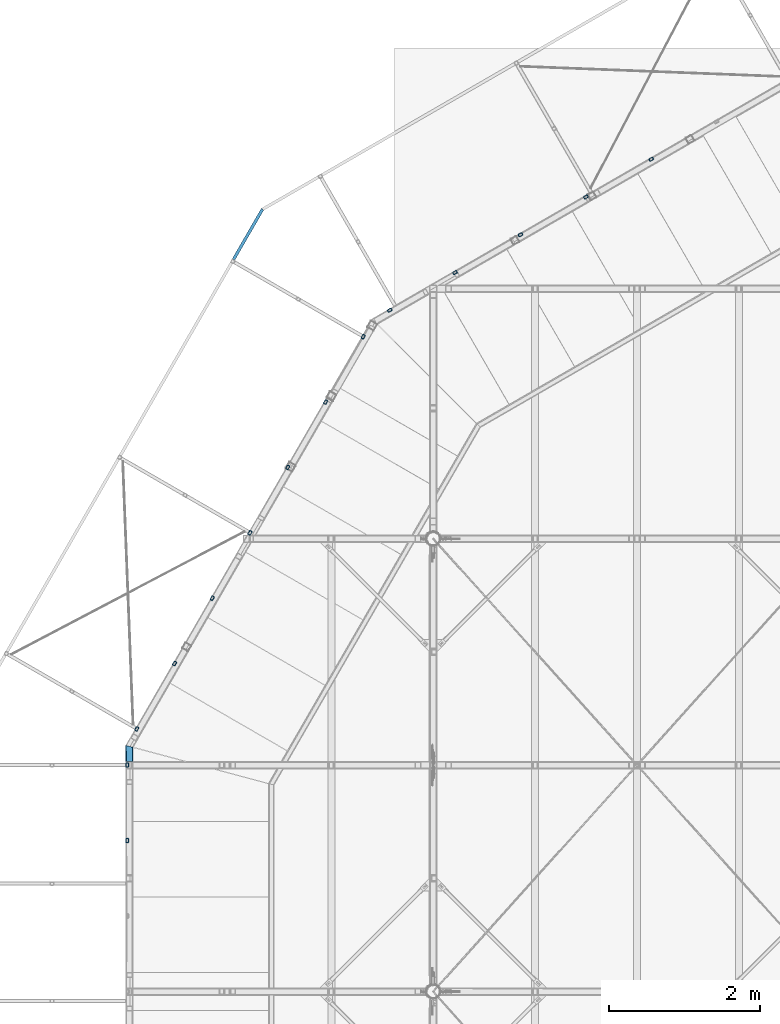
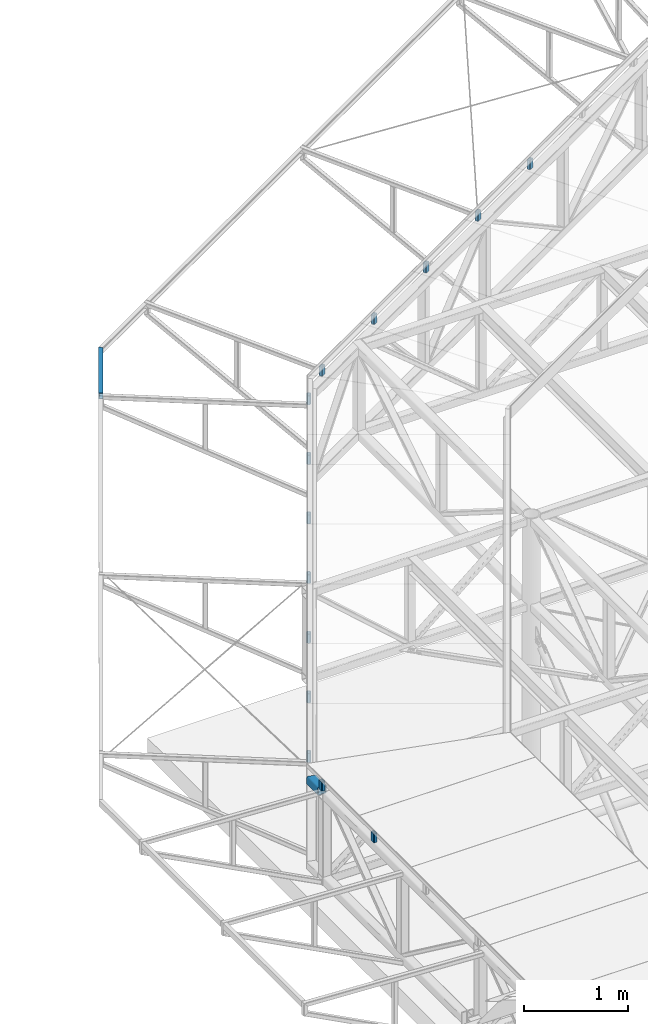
# One storey, part 26 of 132: 16 beams, 16 elements without a shape of their own.
"""IFC2X3 building model written with IfcOpenShell, lengths in millimetres."""

from ifc_helpers import new_model, si_unit, frame, origin_with_axes, origin_2d_with_axis, place, context, subcontext, project, spatial, hollow_rectangle, u_section, extrude, clip, halfspace, material, type_object, element, aggregate, save


model = new_model("IFC2X3")

# Units and contexts
model_context = context("Model", 3, precision=1e-05, world=origin_with_axes())
body_context = subcontext(model_context, "Body", "Model", "MODEL_VIEW")
ifc_project = project(units=[si_unit("LENGTHUNIT", "METRE", prefix="MILLI"), si_unit("AREAUNIT", "SQUARE_METRE"), si_unit("VOLUMEUNIT", "CUBIC_METRE"), si_unit("MASSUNIT", "GRAM", prefix="KILO"), si_unit("TIMEUNIT", "SECOND"), si_unit("PLANEANGLEUNIT", "RADIAN"), si_unit("SOLIDANGLEUNIT", "STERADIAN"), si_unit("THERMODYNAMICTEMPERATUREUNIT", "DEGREE_CELSIUS"), si_unit("LUMINOUSINTENSITYUNIT", "LUMEN")], contexts=[model_context])

# Site, building, storey
site_placement = place(None, origin_with_axes())
site = spatial("IfcSite", under=ifc_project, at=site_placement, Name="Budowa", CompositionType="ELEMENT")
building_placement = place(site_placement, origin_with_axes())
building = spatial("IfcBuilding", under=site, at=building_placement, Name="Undefined", CompositionType="ELEMENT")
storey_placement = place(building_placement, origin_with_axes())
storey = spatial("IfcBuildingStorey", under=building, at=storey_placement, Name="Undefined", CompositionType="ELEMENT", Elevation=0.0)

# Assembly, beam
assembly_1_placement = place(storey_placement, origin_with_axes())
assembly_1 = element("IfcElementAssembly", 1, at=assembly_1_placement, inside=storey, Name="Steel Assembly", AssemblyPlace="NOTDEFINED", PredefinedType="RIGID_FRAME")
ifc_material = material(Name="STEEL/S235")
beam_type_1 = type_object("IfcBeamType", Name="RHS60*40*6", PredefinedType="NOTDEFINED")
beam_1_placement = place(assembly_1_placement, frame((3098.43647414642, 20675.794224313, 13984.0000000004), z_axis=(0.5000000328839, 0.866025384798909, 0.0), x_axis=(0.0, 0.0, -1.0)))
beam_1 = element("IfcBeam", 2, at=beam_1_placement, type_object=beam_type_1, material=ifc_material, Name="BEAM", ObjectType="RHS60*40*6", context=body_context, shape_type="SweptSolid", body=[
    extrude(hollow_rectangle(XDim=40.0, YDim=60.0, WallThickness=6.0, InnerFilletRadius=6.0, OuterFilletRadius=12.0, at=origin_2d_with_axis()), frame((103.597744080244, 0.0, 0.0), z_axis=(-1.0, 0.0, 0.0), x_axis=(0.0, -1.0, 0.0)), (0.0, 0.0, 1.0), 103.6),
])
aggregate(assembly_1, [beam_1])

assembly_2_placement = place(storey_placement, origin_with_axes())
assembly_2 = element("IfcElementAssembly", 3, at=assembly_2_placement, inside=storey, Name="Steel Assembly", AssemblyPlace="NOTDEFINED", PredefinedType="RIGID_FRAME")
beam_2_placement = place(assembly_2_placement, frame((2598.43644122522, 19809.7688395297, 13984.0000000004), z_axis=(0.5000000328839, 0.866025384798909, 0.0), x_axis=(0.0, 0.0, -1.0)))
beam_2 = element("IfcBeam", 4, at=beam_2_placement, type_object=beam_type_1, material=ifc_material, Name="BEAM", ObjectType="RHS60*40*6", context=body_context, shape_type="SweptSolid", body=[
    extrude(hollow_rectangle(XDim=40.0, YDim=60.0, WallThickness=6.0, InnerFilletRadius=6.0, OuterFilletRadius=12.0, at=origin_2d_with_axis()), frame((103.597744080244, 0.0, 0.0), z_axis=(-1.0, 0.0, 0.0), x_axis=(0.0, -1.0, 0.0)), (0.0, 0.0, 1.0), 103.6),
])
aggregate(assembly_2, [beam_2])

assembly_3_placement = place(storey_placement, origin_with_axes())
assembly_3 = element("IfcElementAssembly", 5, at=assembly_3_placement, inside=storey, Name="Steel Assembly", AssemblyPlace="NOTDEFINED", PredefinedType="RIGID_FRAME")
beam_3_placement = place(assembly_3_placement, frame((98.436276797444, 15479.6419155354, 13984.0000000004), z_axis=(0.5000000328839, 0.866025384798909, 0.0), x_axis=(0.0, 0.0, -1.0)))
beam_3 = element("IfcBeam", 6, at=beam_3_placement, type_object=beam_type_1, material=ifc_material, Name="BEAM", ObjectType="RHS60*40*6", context=body_context, shape_type="SweptSolid", body=[
    extrude(hollow_rectangle(XDim=40.0, YDim=60.0, WallThickness=6.0, InnerFilletRadius=6.0, OuterFilletRadius=12.0, at=origin_2d_with_axis()), frame((103.597744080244, 0.0, 0.0), z_axis=(-1.0, 0.0, 0.0), x_axis=(0.0, -1.0, 0.0)), (0.0, 0.0, 1.0), 103.6),
])
aggregate(assembly_3, [beam_3])

assembly_4_placement = place(storey_placement, origin_with_axes())
assembly_4 = element("IfcElementAssembly", 7, at=assembly_4_placement, inside=storey, Name="Steel Assembly", AssemblyPlace="NOTDEFINED", PredefinedType="RIGID_FRAME")
beam_4_placement = place(assembly_4_placement, frame((598.436309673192, 16345.6673003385, 13984.0000000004), z_axis=(0.5000000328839, 0.866025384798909, 0.0), x_axis=(0.0, 0.0, -1.0)))
beam_4 = element("IfcBeam", 8, at=beam_4_placement, type_object=beam_type_1, material=ifc_material, Name="BEAM", ObjectType="RHS60*40*6", context=body_context, shape_type="SweptSolid", body=[
    extrude(hollow_rectangle(XDim=40.0, YDim=60.0, WallThickness=6.0, InnerFilletRadius=6.0, OuterFilletRadius=12.0, at=origin_2d_with_axis()), frame((103.597744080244, 0.0, 0.0), z_axis=(-1.0, 0.0, 0.0), x_axis=(0.0, -1.0, 0.0)), (0.0, 0.0, 1.0), 103.6),
])
aggregate(assembly_4, [beam_4])

assembly_5_placement = place(storey_placement, origin_with_axes())
assembly_5 = element("IfcElementAssembly", 9, at=assembly_5_placement, inside=storey, Name="Steel Assembly", AssemblyPlace="NOTDEFINED", PredefinedType="RIGID_FRAME")
beam_5_placement = place(assembly_5_placement, frame((1098.43634254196, 17211.6926851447, 13984.0000000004), z_axis=(0.5000000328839, 0.866025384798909, 0.0), x_axis=(0.0, 0.0, -1.0)))
beam_5 = element("IfcBeam", 10, at=beam_5_placement, type_object=beam_type_1, material=ifc_material, Name="BEAM", ObjectType="RHS60*40*6", context=body_context, shape_type="SweptSolid", body=[
    extrude(hollow_rectangle(XDim=40.0, YDim=60.0, WallThickness=6.0, InnerFilletRadius=6.0, OuterFilletRadius=12.0, at=origin_2d_with_axis()), frame((103.597744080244, 0.0, 0.0), z_axis=(-1.0, 0.0, 0.0), x_axis=(0.0, -1.0, 0.0)), (0.0, 0.0, 1.0), 103.6),
])
aggregate(assembly_5, [beam_5])

assembly_6_placement = place(storey_placement, origin_with_axes())
assembly_6 = element("IfcElementAssembly", 11, at=assembly_6_placement, inside=storey, Name="Steel Assembly", AssemblyPlace="NOTDEFINED", PredefinedType="RIGID_FRAME")
beam_6_placement = place(assembly_6_placement, frame((2098.43640831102, 18943.7434547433, 13984.0000000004), z_axis=(0.5000000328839, 0.866025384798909, 0.0), x_axis=(0.0, 0.0, -1.0)))
beam_6 = element("IfcBeam", 12, at=beam_6_placement, type_object=beam_type_1, material=ifc_material, Name="BEAM", ObjectType="RHS60*40*6", context=body_context, shape_type="SweptSolid", body=[
    extrude(hollow_rectangle(XDim=40.0, YDim=60.0, WallThickness=6.0, InnerFilletRadius=6.0, OuterFilletRadius=12.0, at=origin_2d_with_axis()), frame((103.597744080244, 0.0, 0.0), z_axis=(-1.0, 0.0, 0.0), x_axis=(0.0, -1.0, 0.0)), (0.0, 0.0, 1.0), 103.6),
])
aggregate(assembly_6, [beam_6])

assembly_7_placement = place(storey_placement, origin_with_axes())
assembly_7 = element("IfcElementAssembly", 13, at=assembly_7_placement, inside=storey, Name="Steel Assembly", AssemblyPlace="NOTDEFINED", PredefinedType="RIGID_FRAME")
beam_7_placement = place(assembly_7_placement, frame((1598.43637540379, 18077.7180699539, 13984.0000000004), z_axis=(0.5000000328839, 0.866025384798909, 0.0), x_axis=(0.0, 0.0, -1.0)))
beam_7 = element("IfcBeam", 14, at=beam_7_placement, type_object=beam_type_1, material=ifc_material, Name="BEAM", ObjectType="RHS60*40*6", context=body_context, shape_type="SweptSolid", body=[
    extrude(hollow_rectangle(XDim=40.0, YDim=60.0, WallThickness=6.0, InnerFilletRadius=6.0, OuterFilletRadius=12.0, at=origin_2d_with_axis()), frame((103.597744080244, 0.0, 0.0), z_axis=(-1.0, 0.0, 0.0), x_axis=(0.0, -1.0, 0.0)), (0.0, 0.0, 1.0), 103.6),
])
aggregate(assembly_7, [beam_7])

assembly_8_placement = place(storey_placement, origin_with_axes())
assembly_8 = element("IfcElementAssembly", 15, at=assembly_8_placement, inside=storey, Name="Steel Assembly", AssemblyPlace="NOTDEFINED", PredefinedType="RIGID_FRAME")
beam_8_placement = place(assembly_8_placement, frame((3449.5113122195, 21026.7964533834, 13984.0000000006), z_axis=(0.866042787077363, 0.499969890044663, 0.0), x_axis=(0.0, 0.0, -1.0)))
beam_8 = element("IfcBeam", 16, at=beam_8_placement, type_object=beam_type_1, material=ifc_material, Name="BEAM", ObjectType="RHS60*40*6", context=body_context, shape_type="SweptSolid", body=[
    extrude(hollow_rectangle(XDim=40.0, YDim=60.0, WallThickness=6.0, InnerFilletRadius=6.0, OuterFilletRadius=12.0, at=origin_2d_with_axis()), frame((103.988921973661, 0.0, 0.0), z_axis=(-1.0, 0.0, 0.0), x_axis=(0.0, -1.0, 0.0)), (0.0, 0.0, 1.0), 103.99),
])
aggregate(assembly_8, [beam_8])

assembly_9_placement = place(storey_placement, origin_with_axes())
assembly_9 = element("IfcElementAssembly", 17, at=assembly_9_placement, inside=storey, Name="Steel Assembly", AssemblyPlace="NOTDEFINED", PredefinedType="RIGID_FRAME")
beam_9_placement = place(assembly_9_placement, frame((4315.55409929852, 21526.7663434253, 13984.0000000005), z_axis=(0.866042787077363, 0.499969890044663, 0.0), x_axis=(0.0, 0.0, -1.0)))
beam_9 = element("IfcBeam", 18, at=beam_9_placement, type_object=beam_type_1, material=ifc_material, Name="BEAM", ObjectType="RHS60*40*6", context=body_context, shape_type="SweptSolid", body=[
    extrude(hollow_rectangle(XDim=40.0, YDim=60.0, WallThickness=6.0, InnerFilletRadius=6.0, OuterFilletRadius=12.0, at=origin_2d_with_axis()), frame((103.988921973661, 0.0, 0.0), z_axis=(-1.0, 0.0, 0.0), x_axis=(0.0, -1.0, 0.0)), (0.0, 0.0, 1.0), 103.99),
])
aggregate(assembly_9, [beam_9])

assembly_10_placement = place(storey_placement, origin_with_axes())
assembly_10 = element("IfcElementAssembly", 19, at=assembly_10_placement, inside=storey, Name="Steel Assembly", AssemblyPlace="NOTDEFINED", PredefinedType="RIGID_FRAME")
beam_10_placement = place(assembly_10_placement, frame((5181.59688639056, 22026.7362334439, 13984.0000000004), z_axis=(0.866042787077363, 0.499969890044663, 0.0), x_axis=(0.0, 0.0, -1.0)))
beam_10 = element("IfcBeam", 20, at=beam_10_placement, type_object=beam_type_1, material=ifc_material, Name="BEAM", ObjectType="RHS60*40*6", context=body_context, shape_type="SweptSolid", body=[
    extrude(hollow_rectangle(XDim=40.0, YDim=60.0, WallThickness=6.0, InnerFilletRadius=6.0, OuterFilletRadius=12.0, at=origin_2d_with_axis()), frame((103.988921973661, 0.0, 0.0), z_axis=(-1.0, 0.0, 0.0), x_axis=(0.0, -1.0, 0.0)), (0.0, 0.0, 1.0), 103.99),
])
aggregate(assembly_10, [beam_10])

assembly_11_placement = place(storey_placement, origin_with_axes())
assembly_11 = element("IfcElementAssembly", 21, at=assembly_11_placement, inside=storey, Name="Steel Assembly", AssemblyPlace="NOTDEFINED", PredefinedType="RIGID_FRAME")
beam_11_placement = place(assembly_11_placement, frame((6913.68246054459, 23026.6760135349, 13984.0000000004), z_axis=(0.866042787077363, 0.499969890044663, 0.0), x_axis=(0.0, 0.0, -1.0)))
beam_11 = element("IfcBeam", 22, at=beam_11_placement, type_object=beam_type_1, material=ifc_material, Name="BEAM", ObjectType="RHS60*40*6", context=body_context, shape_type="SweptSolid", body=[
    extrude(hollow_rectangle(XDim=40.0, YDim=60.0, WallThickness=6.0, InnerFilletRadius=6.0, OuterFilletRadius=12.0, at=origin_2d_with_axis()), frame((103.988921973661, 0.0, 0.0), z_axis=(-1.0, 0.0, 0.0), x_axis=(0.0, -1.0, 0.0)), (0.0, 0.0, 1.0), 103.99),
])
aggregate(assembly_11, [beam_11])

assembly_12_placement = place(storey_placement, origin_with_axes())
assembly_12 = element("IfcElementAssembly", 23, at=assembly_12_placement, inside=storey, Name="Steel Assembly", AssemblyPlace="NOTDEFINED", PredefinedType="RIGID_FRAME")
beam_12_placement = place(assembly_12_placement, frame((6047.63967349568, 22526.7061234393, 13984.0000000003), z_axis=(0.866042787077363, 0.499969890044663, 0.0), x_axis=(0.0, 0.0, -1.0)))
beam_12 = element("IfcBeam", 24, at=beam_12_placement, type_object=beam_type_1, material=ifc_material, Name="BEAM", ObjectType="RHS60*40*6", context=body_context, shape_type="SweptSolid", body=[
    extrude(hollow_rectangle(XDim=40.0, YDim=60.0, WallThickness=6.0, InnerFilletRadius=6.0, OuterFilletRadius=12.0, at=origin_2d_with_axis()), frame((103.988921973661, 0.0, 0.0), z_axis=(-1.0, 0.0, 0.0), x_axis=(0.0, -1.0, 0.0)), (0.0, 0.0, 1.0), 103.99),
])
aggregate(assembly_12, [beam_12])

assembly_13_placement = place(storey_placement, origin_with_axes())
assembly_13 = element("IfcElementAssembly", 25, at=assembly_13_placement, inside=storey, Name="Steel Assembly", AssemblyPlace="NOTDEFINED", PredefinedType="RIGID_FRAME")
beam_13_placement = place(assembly_13_placement, frame((-29.91309373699, 15000.0507154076, 13983.9999999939), z_axis=(0.0, 1.0, 0.0), x_axis=(0.0, 0.0, -1.0)))
beam_13 = element("IfcBeam", 26, at=beam_13_placement, type_object=beam_type_1, material=ifc_material, Name="BEAM", ObjectType="RHS60*40*6", context=body_context, shape_type="SweptSolid", body=[
    extrude(hollow_rectangle(XDim=40.0, YDim=60.0, WallThickness=6.0, InnerFilletRadius=6.0, OuterFilletRadius=12.0, at=origin_2d_with_axis()), frame((103.986096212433, 0.0, 0.0), z_axis=(-1.0, 0.0, 0.0), x_axis=(0.0, -1.0, 0.0)), (0.0, 0.0, 1.0), 103.99),
])
aggregate(assembly_13, [beam_13])

assembly_14_placement = place(storey_placement, origin_with_axes())
assembly_14 = element("IfcElementAssembly", 27, at=assembly_14_placement, inside=storey, Name="Steel Assembly", AssemblyPlace="NOTDEFINED", PredefinedType="RIGID_FRAME")
beam_14_placement = place(assembly_14_placement, frame((-29.9130935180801, 14000.0507154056, 13983.9999999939), z_axis=(0.0, 1.0, 0.0), x_axis=(0.0, 0.0, -1.0)))
beam_14 = element("IfcBeam", 28, at=beam_14_placement, type_object=beam_type_1, material=ifc_material, Name="BEAM", ObjectType="RHS60*40*6", context=body_context, shape_type="SweptSolid", body=[
    extrude(hollow_rectangle(XDim=40.0, YDim=60.0, WallThickness=6.0, InnerFilletRadius=6.0, OuterFilletRadius=12.0, at=origin_2d_with_axis()), frame((103.986096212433, 0.0, 0.0), z_axis=(-1.0, 0.0, 0.0), x_axis=(0.0, -1.0, 0.0)), (0.0, 0.0, 1.0), 103.99),
])
aggregate(assembly_14, [beam_14])

assembly_15_placement = place(storey_placement, origin_with_axes())
assembly_15 = element("IfcElementAssembly", 29, at=assembly_15_placement, inside=storey, Name="Steel Assembly", AssemblyPlace="NOTDEFINED", PredefinedType="RIGID_FRAME")
beam_type_2 = type_object("IfcBeamType", Name="C70*40*4", PredefinedType="NOTDEFINED")
beam_15_placement = place(assembly_15_placement, frame((1854.50194709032, 22521.2427736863, 13945.0030433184), z_axis=(4.93841134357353e-07, 8.55724814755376e-07, -0.999999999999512), x_axis=(-0.499969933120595, -0.866042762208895, -9.88000000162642e-07)))
beam_15 = element("IfcBeam", 30, at=beam_15_placement, type_object=beam_type_2, material=ifc_material, Name="BEAM", ObjectType="C70*40*4", context=body_context, shape_type="Clipping", body=[
    clip(extrude(u_section(Depth=70.0, FlangeWidth=40.0, WebThickness=4.0, FlangeThickness=4.0, FilletRadius=6.0, at=origin_2d_with_axis()), frame((950.000000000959, 1.82248795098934e-14, 0.0), z_axis=(-1.0, 0.0, 0.0), x_axis=(0.0, -1.0, 0.0)), (0.0, 0.0, 1.0), 804.12), halfspace(frame((178.21755564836, 20.0000598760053, -0.0021914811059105), z_axis=(0.965916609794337, 0.258853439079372, -4.4305050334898e-07), x_axis=(-1.71128704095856e-10, -1.71094966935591e-06, -0.999999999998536)), True)),
])
aggregate(assembly_15, [beam_15])

assembly_16_placement = place(storey_placement, origin_with_axes())
assembly_16 = element("IfcElementAssembly", 31, at=assembly_16_placement, inside=storey, Name="Steel Assembly", AssemblyPlace="NOTDEFINED", PredefinedType="RIGID_FRAME")
beam_type_3 = type_object("IfcBeamType", Name="SHS100*8", PredefinedType="NOTDEFINED")
beam_16_placement = place(assembly_16_placement, frame((-0.000107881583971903, 15262.0821808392, 13830.0), z_axis=(-1.0, 0.0, 0.0), x_axis=(0.0, -1.0, 0.0)))
beam_16 = element("IfcBeam", 32, at=beam_16_placement, type_object=beam_type_3, material=ifc_material, Name="BEAM", ObjectType="SHS100*8", context=body_context, shape_type="Clipping", body=[
    clip(extrude(hollow_rectangle(XDim=100.0, YDim=100.0, WallThickness=8.0, InnerFilletRadius=8.0, OuterFilletRadius=16.0, at=origin_2d_with_axis()), frame((212.282180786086, 0.0, 0.0), z_axis=(-1.0, 0.0, 0.0), x_axis=(0.0, -1.0, 0.0)), (0.0, 0.0, 1.0), 212.42), halfspace(frame((-1.38836367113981e-06, 0.0, 50.0), z_axis=(0.965925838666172, 0.0, 0.258818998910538), x_axis=(0.0, 1.0, 0.0)), True)),
])
aggregate(assembly_16, [beam_16])

save(model, "model.ifc")
